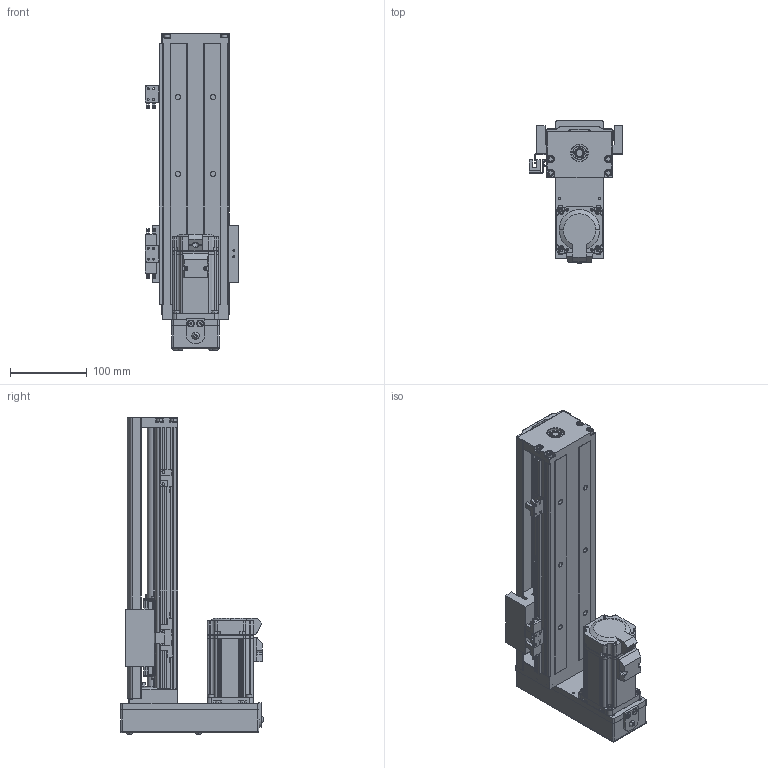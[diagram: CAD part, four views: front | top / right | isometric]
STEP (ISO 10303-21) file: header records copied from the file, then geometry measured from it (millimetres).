
FILE_DESCRIPTION (( 'STEP AP214' ), '1' );
FILE_NAME ('SFKK86-340A1-HM0C.STEP', '2022-05-05T13:08:27', ( '微软用户' ), ( '微软中国' ), 'SwSTEP 2.0', 'SolidWorks 2018', '' );
FILE_SCHEMA (( 'AUTOMOTIVE_DESIGN' ));
Length unit declared in the file: millimetre
Products named in the file (12): SFKK86-H0_KKR86-ZT-P-340; 带盖挡光片：KK-86-S2-D1; SFKK86-340A1-HM0C; SX674嫖萇羲壽; hexagon socket countersunk head screws gb_GB_FASTENER_SCREWS_HSCHS M4X10-N; 极限轨道与开关固定座组合_340; SFKK86-H0-侂狟400W耜蚾; SFKK86-LR 憤癹寢耋_340; SFKK86-A1-C; hexagon socket countersunk head screws gb_GB_FASTENER_SCREWS_HSCHS M3X8-N; SFKK86-CU_340; 开关固定座：KK-674S2-F
Assembly tree (18 placements, depth 3):
  SFKK86-340A1-HM0C
    SFKK86-H0_KKR86-ZT-P-340
    SFKK86-A1-C
    极限轨道与开关固定座组合_340
      SFKK86-LR 憤癹寢耋_340
      开关固定座：KK-674S2-F  x2
    SX674嫖萇羲壽  x3
    带盖挡光片：KK-86-S2-D1
    hexagon socket countersunk head screws gb_GB_FASTENER_SCREWS_HSCHS M3X8-N  x2
    SFKK86-CU_340
    hexagon socket countersunk head screws gb_GB_FASTENER_SCREWS_HSCHS M4X10-N  x4
    SFKK86-H0-侂狟400W耜蚾
Bounding box: 121.25 x 185.75 x 413.2 mm (x, y, z)
Volume: 1134436.6 mm3; surface area: 508400.3 mm2
Topology: 38 solids, 87 shells, 3612 faces, 9615 edges, 6161 vertices
Faces by surface type: plane 1623, cylinder 1444, cone 309, torus 105, bspline 98, sphere 33
Entity records: 134718 total; most frequent: CARTESIAN_POINT 28014, DIRECTION 18114, ORIENTED_EDGE 17330, EDGE_CURVE 8948, AXIS2_PLACEMENT_3D 6511, VERTEX_POINT 5835, VECTOR 5092, LINE 5092
